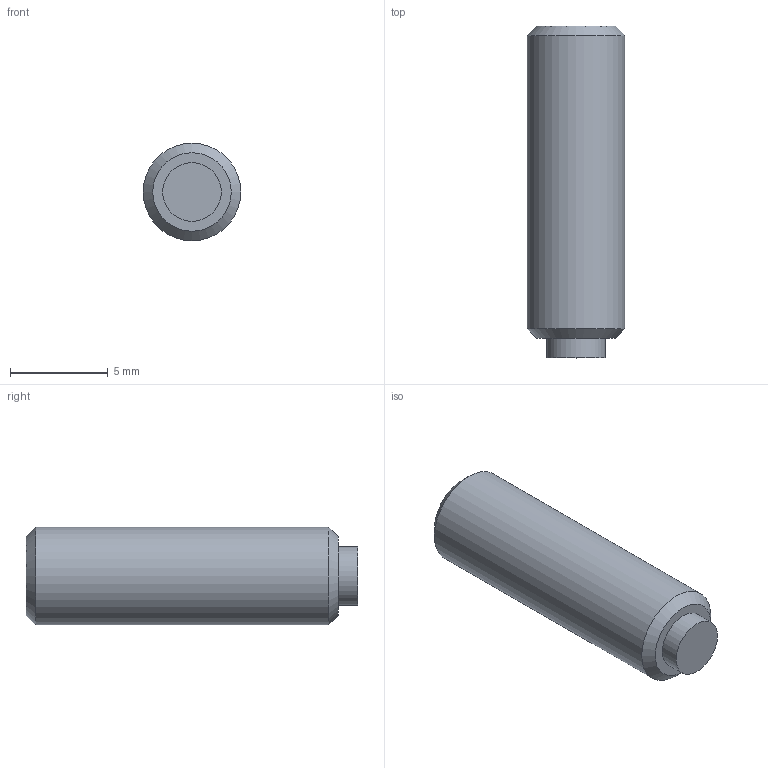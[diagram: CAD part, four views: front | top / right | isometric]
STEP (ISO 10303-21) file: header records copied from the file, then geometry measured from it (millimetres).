
FILE_DESCRIPTION( ( 'STEP AP203' ), '1' );
FILE_NAME( 'C:/Temp/Ganter_Step_05_03_2020/data/3_2/gn913_3/Grub screw GN 913.3-M5-16-KU.stp', '2020-03-13T05:35:34', ( 'License CC BY-ND 4.0' ), ( 'CADENAS' ), ' ', 'PARTsolutions', ' ' );
FILE_SCHEMA( ( 'CONFIG_CONTROL_DESIGN' ) );
Length unit declared in the file: millimetre
Products named in the file (1): _Grub screw GN 913.3-M5-16-KU
Bounding box: 5 x 17 x 5 mm (x, y, z)
Volume: 301.5 mm3; surface area: 316.4 mm2
Topology: 1 solids, 1 shells, 14 faces, 28 edges, 18 vertices
Faces by surface type: plane 10, cylinder 2, cone 2
Full cylindrical faces by diameter (mm): 3 x1, 5 x1
Entity records: 386 total; most frequent: DIRECTION 60, CARTESIAN_POINT 57, ORIENTED_EDGE 48, EDGE_CURVE 24, AXIS2_PLACEMENT_3D 21, EDGE_LOOP 20, VERTEX_POINT 18, LINE 18
